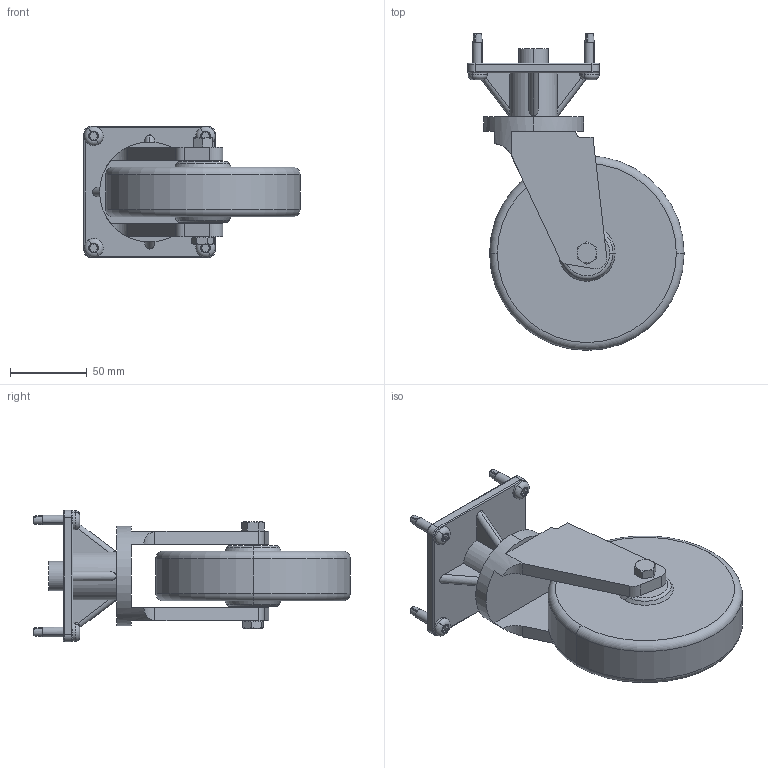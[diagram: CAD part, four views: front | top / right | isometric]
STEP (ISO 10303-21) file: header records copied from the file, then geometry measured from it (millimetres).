
FILE_DESCRIPTION (( 'STEP AP203' ), '1' );
FILE_NAME ('H030151100.STEP', '2020-06-02T12:09:28', ( '' ), ( '' ), 'SwSTEP 2.0', 'SolidWorks 2020', '' );
FILE_SCHEMA (( 'CONFIG_CONTROL_DESIGN' ));
Length unit declared in the file: inch
Products named in the file (7): 25C100PTFZ; H030151100; caster base1; wheel5D; Hex Jam Nut_Derived Ansi Inch Standard_HJNUT 0.3125-18-D-N; Hex Bolt_Derived Ansi Inch Standard_HBOLT 0.3125-18x2.5x0.875-N; H0200621
Assembly tree (9 placements, depth 2):
  H030151100
    caster base1
    wheel5D
    Hex Jam Nut_Derived Ansi Inch Standard_HJNUT 0.3125-18-D-N
    Hex Bolt_Derived Ansi Inch Standard_HBOLT 0.3125-18x2.5x0.875-N
    H0200621
    25C100PTFZ  x4
Bounding box: 141.16 x 206.76 x 85.72 mm (x, y, z)
Volume: 600284.2 mm3; surface area: 97225.9 mm2
Topology: 9 solids, 9 shells, 351 faces, 871 edges, 553 vertices
Faces by surface type: plane 135, cylinder 132, cone 60, torus 24
Entity records: 7354 total; most frequent: CARTESIAN_POINT 1595, DIRECTION 1067, ORIENTED_EDGE 1010, EDGE_CURVE 505, AXIS2_PLACEMENT_3D 428, VERTEX_POINT 316, EDGE_LOOP 237, LINE 211
